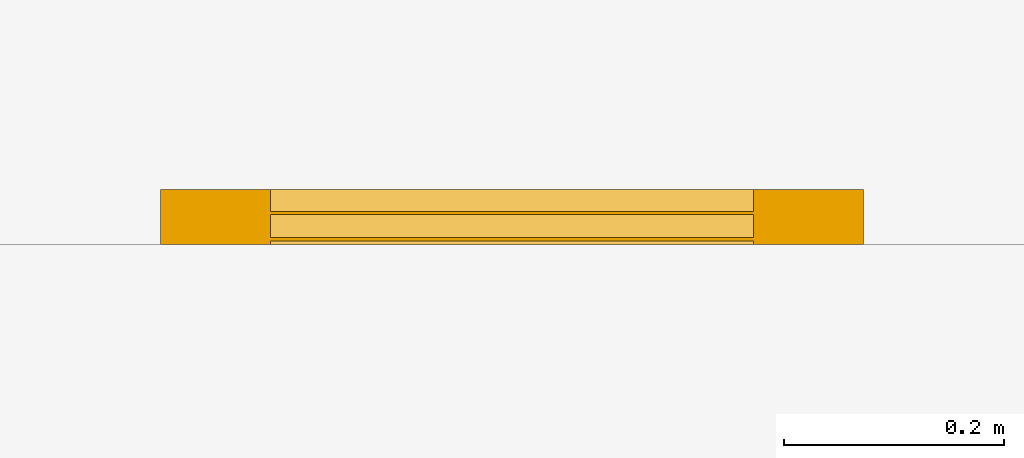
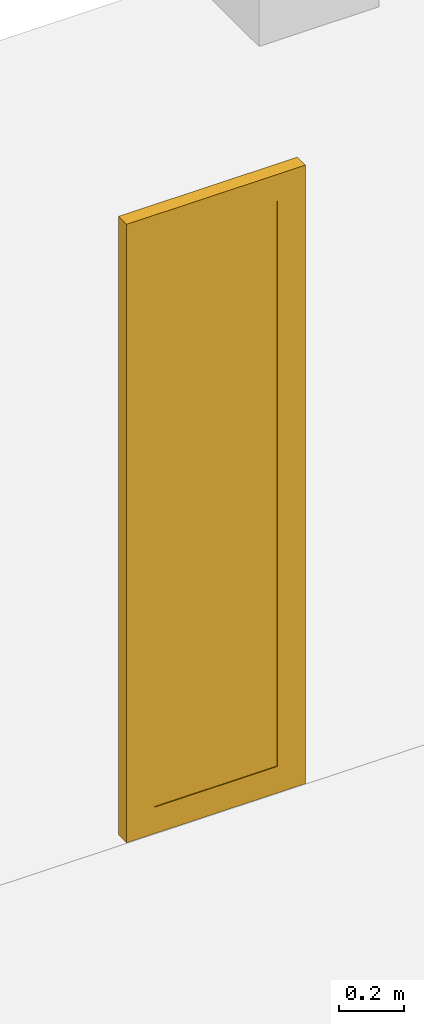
# One storey, part 25 of 25: 1 window.
"""IFC2X3 building model written with IfcOpenShell, lengths in millimetres."""

from ifc_helpers import new_model, entity, si_unit, converted_unit, derived_unit, direction, frame, frame_2d, origin, place, context, subcontext, project, spatial, polyline, rectangle, outline, extrude, source, transform, mapped, material, material_list, type_object, type_shapes, element, save


model = new_model("IFC2X3")

# Units and contexts
model_context = context("Model", 3, precision=0.01, world=origin(), true_north=direction((6.12303176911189e-17, 1.0)))
body_context = subcontext(model_context, "Body", "Model", "MODEL_VIEW")
ifc_project = project(units=[si_unit("LENGTHUNIT", "METRE", prefix="MILLI"), si_unit("AREAUNIT", "SQUARE_METRE"), si_unit("VOLUMEUNIT", "CUBIC_METRE"), converted_unit("PLANEANGLEUNIT", "DEGREE", entity("IfcRatioMeasure", 0.0174532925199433), si_unit("PLANEANGLEUNIT", "RADIAN"), dimensions=[0, 0, 0, 0, 0, 0, 0]), si_unit("MASSUNIT", "GRAM", prefix="KILO"), derived_unit("MASSDENSITYUNIT", [(si_unit("MASSUNIT", "GRAM", prefix="KILO"), 1), (si_unit("LENGTHUNIT", "METRE"), -3)]), derived_unit("MOMENTOFINERTIAUNIT", [(si_unit("LENGTHUNIT", "METRE"), 4)]), si_unit("TIMEUNIT", "SECOND"), si_unit("FREQUENCYUNIT", "HERTZ"), si_unit("THERMODYNAMICTEMPERATUREUNIT", "DEGREE_CELSIUS"), derived_unit("THERMALTRANSMITTANCEUNIT", [(si_unit("MASSUNIT", "GRAM", prefix="KILO"), 1), (si_unit("THERMODYNAMICTEMPERATUREUNIT", "KELVIN"), -1), (si_unit("TIMEUNIT", "SECOND"), -3)]), derived_unit("VOLUMETRICFLOWRATEUNIT", [(si_unit("LENGTHUNIT", "METRE"), 3), (si_unit("TIMEUNIT", "SECOND"), -1)]), si_unit("ELECTRICCURRENTUNIT", "AMPERE"), si_unit("ELECTRICVOLTAGEUNIT", "VOLT"), si_unit("POWERUNIT", "WATT"), si_unit("FORCEUNIT", "NEWTON", prefix="KILO"), si_unit("ILLUMINANCEUNIT", "LUX"), si_unit("LUMINOUSFLUXUNIT", "LUMEN"), si_unit("LUMINOUSINTENSITYUNIT", "CANDELA"), derived_unit("USERDEFINED", [(si_unit("MASSUNIT", "GRAM", prefix="KILO"), -1), (si_unit("LENGTHUNIT", "METRE"), -2), (si_unit("TIMEUNIT", "SECOND"), 3), (si_unit("LUMINOUSFLUXUNIT", "LUMEN"), 1)]), derived_unit("LINEARVELOCITYUNIT", [(si_unit("LENGTHUNIT", "METRE"), 1), (si_unit("TIMEUNIT", "SECOND"), -1)]), si_unit("PRESSUREUNIT", "PASCAL"), derived_unit("USERDEFINED", [(si_unit("LENGTHUNIT", "METRE"), -2), (si_unit("MASSUNIT", "GRAM", prefix="KILO"), 1), (si_unit("TIMEUNIT", "SECOND"), -2)]), derived_unit("LINEARFORCEUNIT", [(si_unit("MASSUNIT", "GRAM", prefix="KILO"), 1), (si_unit("LENGTHUNIT", "METRE"), 1), (si_unit("TIMEUNIT", "SECOND"), -2), (si_unit("LENGTHUNIT", "METRE"), -1)]), derived_unit("PLANARFORCEUNIT", [(si_unit("MASSUNIT", "GRAM", prefix="KILO"), 1), (si_unit("LENGTHUNIT", "METRE"), 1), (si_unit("TIMEUNIT", "SECOND"), -2), (si_unit("LENGTHUNIT", "METRE"), -2)])], contexts=[model_context])

# Site, building, storey
site_placement = place(None, frame((10627.5135316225, 21939.0796949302, 0.0)))
site = spatial("IfcSite", under=ifc_project, at=site_placement, Name="Default", CompositionType="ELEMENT")
building_placement = place(site_placement, origin())
building = spatial("IfcBuilding", under=site, at=building_placement, CompositionType="ELEMENT")
storey_placement = place(building_placement, origin())
storey = spatial("IfcBuildingStorey", under=building, at=storey_placement, Name="RDC", CompositionType="ELEMENT", Elevation=0.0)

# Window
ifc_material_1 = material(Name="Stainless Steel, Brushed")
ifc_material_2 = material(Name="Glass")
ifc_material_list = material_list([ifc_material_1, ifc_material_2])
window_style = type_object("IfcWindowStyle", Name="Entrance windows:Central", ConstructionType="NOTDEFINED", OperationType="NOTDEFINED", ParameterTakesPrecedence=False, Sizeable=False, material=ifc_material_1)
shared_shape = source(origin(), body_context, "Body", "SweptSolid", [
    extrude(outline(polyline([(-320.0, -1170.0), (320.0, -1170.0), (320.0, 1170.0), (-320.0, 1170.0), (-320.0, -1170.0)]), holes=[polyline([(-220.0, -1070.0), (-220.0, 1070.0), (220.0, 1070.0), (220.0, -1070.0), (-220.0, -1070.0)])]), frame((320.0, 50.0, 1170.0), z_axis=(0.0, 1.0, 0.0), x_axis=(1.0, 0.0, 0.0)), (0.0, 0.0, 1.0), 50.0),
    extrude(outline(polyline([(-220.0, -1070.0), (220.0, -1070.0), (220.0, 1070.0), (-220.0, 1070.0), (-220.0, -1070.0)]), holes=[polyline([(217.0, 1067.0), (217.0, -1067.0), (-217.0, -1067.0), (-217.0, 1067.0), (217.0, 1067.0)])]), frame((320.0, 70.0, 1170.0), z_axis=(0.0, 1.0, 0.0), x_axis=(1.0, 0.0, 0.0)), (0.0, 0.0, 1.0), 3.0),
    extrude(rectangle(XDim=3.0, YDim=434.000000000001, at=frame_2d((2.1094237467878e-15, 0.0), x_axis=(1.0, 0.0))), frame((320.0, 71.5000000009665, 103.0), z_axis=(0.0, 0.0, 1.0), x_axis=(0.0, 1.0, 0.0)), (0.0, 0.0, 1.0), 2134.0),
    extrude(outline(polyline([(-220.0, -1070.0), (220.0, -1070.0), (220.0, 1070.0), (-220.0, 1070.0), (-220.0, -1070.0)]), holes=[polyline([(217.0, 1067.0), (217.0, -1067.0), (-217.0, -1067.0), (-217.0, 1067.0), (217.0, 1067.0)])]), frame((320.0, 94.0, 1170.0), z_axis=(0.0, 1.0, 0.0), x_axis=(1.0, 0.0, 0.0)), (0.0, 0.0, 1.0), 3.0),
    extrude(rectangle(XDim=3.0, YDim=434.000000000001, at=frame_2d((4.21884749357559e-15, 0.0), x_axis=(1.0, 0.0))), frame((320.0, 95.5000000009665, 103.0), z_axis=(0.0, 0.0, 1.0), x_axis=(0.0, 1.0, 0.0)), (0.0, 0.0, 1.0), 2134.0),
])
type_shapes(window_style, [shared_shape])
window_placement = place(storey_placement, frame((26899.1073360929, -18797.9430237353, 2.0), z_axis=(0.0, 0.0, 1.0), x_axis=(-1.0, 0.0, 0.0)))
element("IfcWindow", 1, at=window_placement, inside=storey, type_object=window_style, material=ifc_material_list, Name="Entrance windows:Central", ObjectType="Entrance windows:Central", OverallHeight=2340.0, OverallWidth=640.0, context=body_context, shape_type="MappedRepresentation", body=[
    mapped(shared_shape, transform((0.0, 0.0, 0.0), scale=1.0)),
])

save(model, "model.ifc")
